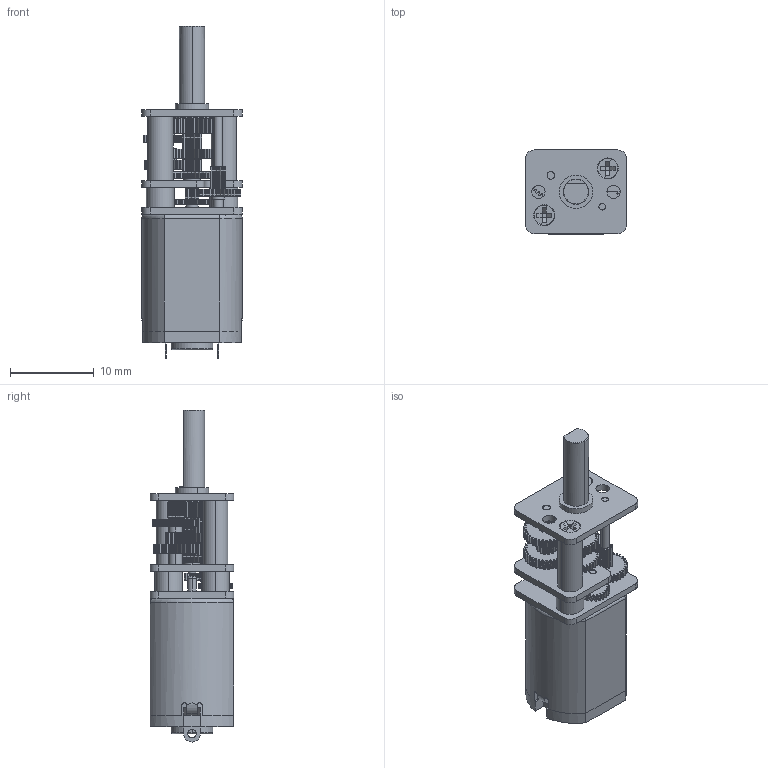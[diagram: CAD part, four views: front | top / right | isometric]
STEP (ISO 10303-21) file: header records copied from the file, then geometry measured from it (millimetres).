
FILE_DESCRIPTION (( 'STEP AP214' ), '1' );
FILE_NAME ('mmgm-1000-1-carbon-brushes.STEP', '2024-04-22T23:57:17', ( '' ), ( '' ), 'SwSTEP 2.0', 'SolidWorks 2023', '' );
FILE_SCHEMA (( 'AUTOMOTIVE_DESIGN' ));
Length unit declared in the file: inch
Products named in the file (1): mmgm-1000-1-carbon-brushes
Bounding box: 12 x 10 x 39.7 mm (x, y, z)
Volume: 2252.6 mm3; surface area: 2505 mm2
Topology: 1 solids, 3 shells, 3008 faces, 8986 edges, 6041 vertices
Faces by surface type: cylinder 1708, plane 933, bspline 354, torus 7, cone 6
Entity records: 162310 total; most frequent: CARTESIAN_POINT 53048, ORIENTED_EDGE 17972, DIRECTION 9957, EDGE_CURVE 8986, VERTEX_POINT 6041, B_SPLINE_CURVE_WITH_KNOTS 5660, AXIS2_PLACEMENT_3D 3990, EDGE_LOOP 3111
